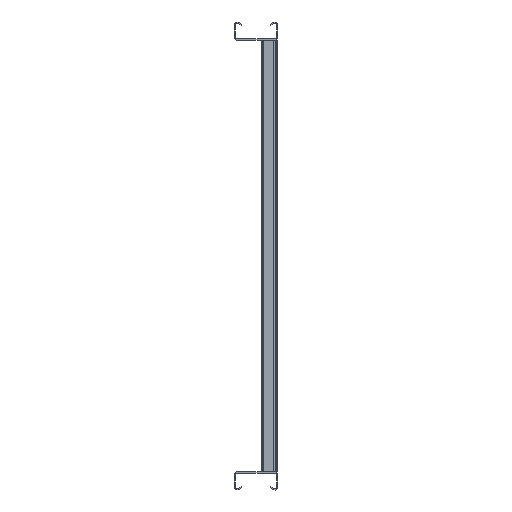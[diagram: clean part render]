
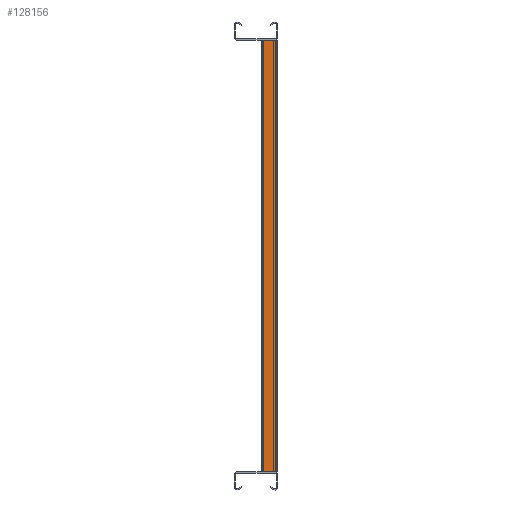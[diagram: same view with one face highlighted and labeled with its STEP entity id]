
A CAD part, left-side view. The second image highlights one B-rep face of the part: STEP entity #128156.
In plain terms, the highlighted planar face has unit normal (-1, 0, 0).
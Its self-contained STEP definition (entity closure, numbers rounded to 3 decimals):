
#5819=LINE('',#189276,#18131);
#5820=LINE('',#189278,#18132);
#5821=LINE('',#189280,#18133);
#5822=LINE('',#189281,#18134);
#18131=VECTOR('',#151518,10.);
#18132=VECTOR('',#151519,10.);
#18133=VECTOR('',#151520,10.);
#18134=VECTOR('',#151521,10.);
#28231=PLANE('',#134706);
#33388=FACE_OUTER_BOUND('',#40160,.T.);
#40160=EDGE_LOOP('',(#91933,#91934,#91935,#91936));
#53271=VERTEX_POINT('',#189271);
#53272=VERTEX_POINT('',#189275);
#53273=VERTEX_POINT('',#189277);
#53274=VERTEX_POINT('',#189279);
#67758=EDGE_CURVE('',#53272,#53271,#5819,.T.);
#67759=EDGE_CURVE('',#53273,#53272,#5820,.T.);
#67760=EDGE_CURVE('',#53273,#53274,#5821,.T.);
#67761=EDGE_CURVE('',#53271,#53274,#5822,.T.);
#91933=ORIENTED_EDGE('',*,*,#67758,.F.);
#91934=ORIENTED_EDGE('',*,*,#67759,.F.);
#91935=ORIENTED_EDGE('',*,*,#67760,.T.);
#91936=ORIENTED_EDGE('',*,*,#67761,.F.);
#128156=ADVANCED_FACE('',(#33388),#28231,.T.);
#134706=AXIS2_PLACEMENT_3D('',#189274,#151516,#151517);
#151516=DIRECTION('center_axis',(-1.,0.,0.));
#151517=DIRECTION('ref_axis',(0.,0.,
-1.));
#151518=DIRECTION('',(0.,0.,1.));
#151519=DIRECTION('',(0.,1.,0.));
#151520=DIRECTION('',(0.,0.,1.));
#151521=DIRECTION('',(0.,-1.,0.));
#189271=CARTESIAN_POINT('',(-2894.75,-11.,300.));
#189274=CARTESIAN_POINT('Origin',(-2894.75,9.143,0.));
#189275=CARTESIAN_POINT('',(-2894.75,-11.,-300.));
#189276=CARTESIAN_POINT('',(-2894.75,-11.,0.));
#189277=CARTESIAN_POINT('',(-2894.75,-27.,-300.));
#189278=CARTESIAN_POINT('',(-2894.75,56.822,-300.));
#189279=CARTESIAN_POINT('',(-2894.75,-27.,300.));
#189280=CARTESIAN_POINT('',(-2894.75,-27.,0.));
#189281=CARTESIAN_POINT('',(-2894.75,-41.536,300.));
